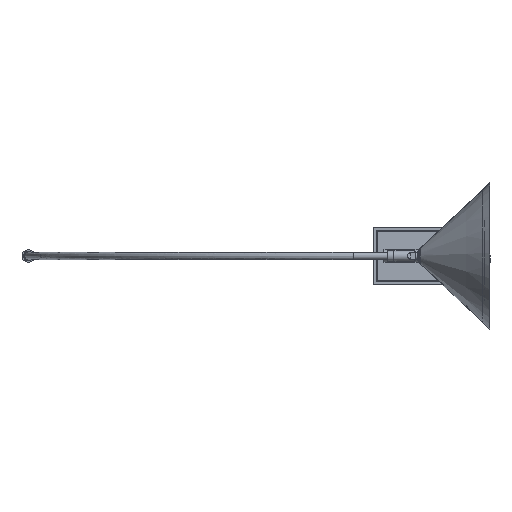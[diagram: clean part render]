
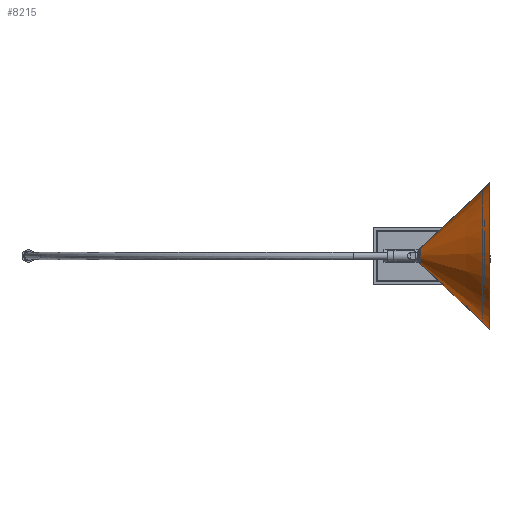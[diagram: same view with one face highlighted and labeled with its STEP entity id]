
A CAD part, left-side view. The second image highlights one B-rep face of the part: STEP entity #8215.
In plain terms, the highlighted conical face has half-angle 43.203 degrees and reference radius 110.017 mm.
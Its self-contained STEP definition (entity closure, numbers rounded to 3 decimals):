
#65 = DIRECTION ( 'NONE',  ( 0., -0.729, -0.685 ) ) ;
#415 = CARTESIAN_POINT ( 'NONE',  ( 0., 0.685, 0. ) ) ;
#1173 = LINE ( 'NONE', #5367, #8881 ) ;
#1233 = DIRECTION ( 'NONE',  ( 0., 0., -1. ) ) ;
#1702 = CARTESIAN_POINT ( 'NONE',  ( 0., 0.685, -110.017 ) ) ;
#1766 = DIRECTION ( 'NONE',  ( 0., 0., -1. ) ) ;
#2708 = DIRECTION ( 'NONE',  ( 0., -0.729, 0.685 ) ) ;
#2802 = LINE ( 'NONE', #1702, #12009 ) ;
#2998 = CARTESIAN_POINT ( 'NONE',  ( 0., 0.685, 0. ) ) ;
#3036 = CARTESIAN_POINT ( 'NONE',  ( 0., 104.672, 12.355 ) ) ;
#4058 = EDGE_LOOP ( 'NONE', ( #11087, #17575, #5057, #16341 ) ) ;
#4223 = CONICAL_SURFACE ( 'NONE', #14408, 110.017, 0.754 ) ;
#4321 = VERTEX_POINT ( 'NONE', #15286 ) ;
#5057 = ORIENTED_EDGE ( 'NONE', *, *, #5442, .T. ) ;
#5367 = CARTESIAN_POINT ( 'NONE',  ( 0., 0.685, 110.017 ) ) ;
#5442 = EDGE_CURVE ( 'NONE', #4321, #15798, #2802, .T. ) ;
#6233 = EDGE_CURVE ( 'NONE', #11574, #4321, #17565, .T. ) ;
#6881 = CARTESIAN_POINT ( 'NONE',  ( 0., 104.672, 0. ) ) ;
#8215 = ADVANCED_FACE ( 'NONE', ( #12649 ), #4223, .T. ) ;
#8377 = CARTESIAN_POINT ( 'NONE',  ( 0., 0.685, 110.017 ) ) ;
#8644 = EDGE_CURVE ( 'NONE', #11574, #13396, #1173, .T. ) ;
#8881 = VECTOR ( 'NONE', #2708, 1000. ) ;
#10004 = DIRECTION ( 'NONE',  ( 0., 0., -1. ) ) ;
#10853 = AXIS2_PLACEMENT_3D ( 'NONE', #415, #14163, #1766 ) ;
#11087 = ORIENTED_EDGE ( 'NONE', *, *, #8644, .F. ) ;
#11120 = CIRCLE ( 'NONE', #10853, 110.017 ) ;
#11574 = VERTEX_POINT ( 'NONE', #3036 ) ;
#12009 = VECTOR ( 'NONE', #65, 1000. ) ;
#12649 = FACE_OUTER_BOUND ( 'NONE', #4058, .T. ) ;
#13189 = AXIS2_PLACEMENT_3D ( 'NONE', #6881, #15176, #1233 ) ;
#13396 = VERTEX_POINT ( 'NONE', #8377 ) ;
#14163 = DIRECTION ( 'NONE',  ( 0., -1., 0. ) ) ;
#14408 = AXIS2_PLACEMENT_3D ( 'NONE', #2998, #15592, #10004 ) ;
#15176 = DIRECTION ( 'NONE',  ( 0., -1., 0. ) ) ;
#15286 = CARTESIAN_POINT ( 'NONE',  ( 0., 104.672, -12.355 ) ) ;
#15391 = CARTESIAN_POINT ( 'NONE',  ( 0., 0.685, -110.017 ) ) ;
#15592 = DIRECTION ( 'NONE',  ( 0., -1., 0. ) ) ;
#15798 = VERTEX_POINT ( 'NONE', #15391 ) ;
#16341 = ORIENTED_EDGE ( 'NONE', *, *, #17171, .F. ) ;
#17171 = EDGE_CURVE ( 'NONE', #13396, #15798, #11120, .T. ) ;
#17565 = CIRCLE ( 'NONE', #13189, 12.355 ) ;
#17575 = ORIENTED_EDGE ( 'NONE', *, *, #6233, .T. ) ;
